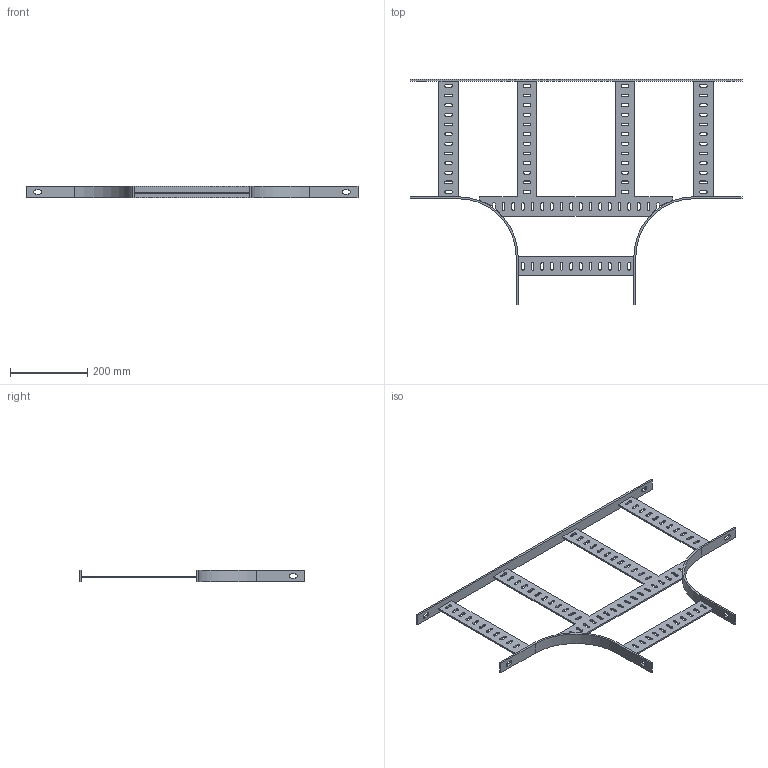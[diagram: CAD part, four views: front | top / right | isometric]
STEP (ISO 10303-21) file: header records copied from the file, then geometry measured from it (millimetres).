
FILE_DESCRIPTION(('Creo Elements/Direct Modeling STEP Export'),'2;1');
FILE_NAME('//pserver/office/EK/ME10-3D/3D-output/SLA 300F.stp','2020-03-10T15:08:26',(''),(''),'PTC Creo Elements/Direct Modeling STEP processor for AP214 (Solid Model)','PTC Creo Elements/Direct Modeling 19.0C 15-Aug-2015 (C) Parametric Technology GmbH','');
FILE_SCHEMA(('AUTOMOTIVE_DESIGN { 1 0 10303 214 1 1 1 1 }'));
Length unit declared in the file: millimetre
Products named in the file (1): SLA_300F
Bounding box: 860 x 585 x 30 mm (x, y, z)
Volume: 618319.9 mm3; surface area: 331958.8 mm2
Topology: 1 solids, 1 shells, 392 faces, 1170 edges, 780 vertices
Faces by surface type: plane 220, cylinder 172
Entity records: 13504 total; most frequent: ORIENTED_EDGE 2340, CARTESIAN_POINT 2321, DIRECTION 2274, EDGE_CURVE 1170, VECTOR 808, LINE 808, VERTEX_POINT 780, AXIS2_PLACEMENT_3D 733
